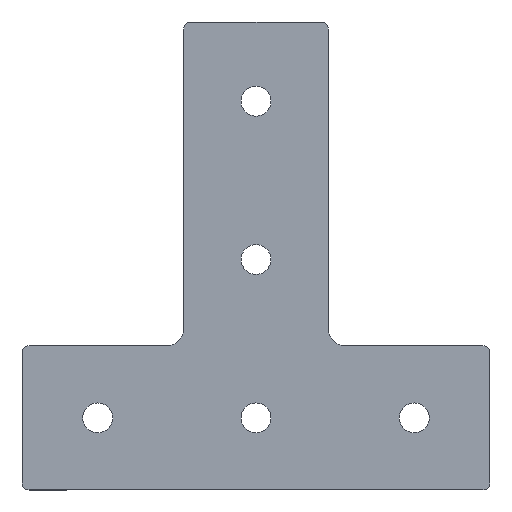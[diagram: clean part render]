
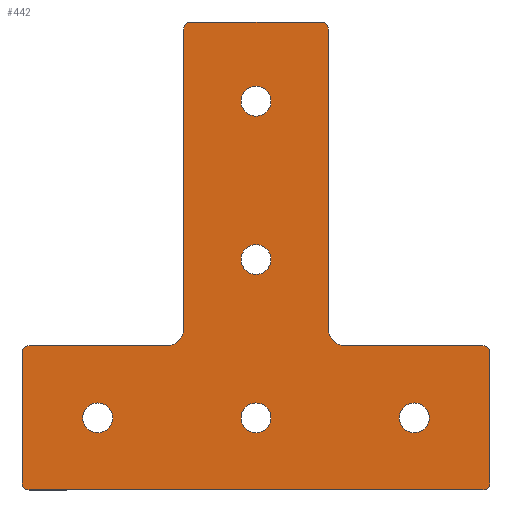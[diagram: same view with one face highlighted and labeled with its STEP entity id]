
A CAD part, top view. The second image highlights one B-rep face of the part: STEP entity #442.
In plain terms, the highlighted planar face has unit normal (0, 0, 1).
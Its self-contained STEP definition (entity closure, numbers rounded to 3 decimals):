
#21=CIRCLE('',#464,2.);
#23=CIRCLE('',#468,5.);
#25=CIRCLE('',#472,2.);
#27=CIRCLE('',#476,2.);
#29=CIRCLE('',#480,2.);
#31=CIRCLE('',#484,2.);
#33=CIRCLE('',#488,5.);
#35=CIRCLE('',#492,2.);
#41=CIRCLE('',#500,4.25);
#42=CIRCLE('',#501,4.25);
#43=CIRCLE('',#502,4.25);
#44=CIRCLE('',#503,4.25);
#45=CIRCLE('',#504,4.25);
#144=ORIENTED_EDGE('',*,*,#228,.F.);
#145=ORIENTED_EDGE('',*,*,#229,.F.);
#146=ORIENTED_EDGE('',*,*,#230,.F.);
#147=ORIENTED_EDGE('',*,*,#222,.T.);
#148=ORIENTED_EDGE('',*,*,#219,.T.);
#149=ORIENTED_EDGE('',*,*,#216,.T.);
#150=ORIENTED_EDGE('',*,*,#213,.T.);
#151=ORIENTED_EDGE('',*,*,#210,.T.);
#152=ORIENTED_EDGE('',*,*,#207,.T.);
#153=ORIENTED_EDGE('',*,*,#204,.T.);
#154=ORIENTED_EDGE('',*,*,#201,.T.);
#155=ORIENTED_EDGE('',*,*,#198,.T.);
#156=ORIENTED_EDGE('',*,*,#195,.T.);
#157=ORIENTED_EDGE('',*,*,#192,.T.);
#158=ORIENTED_EDGE('',*,*,#189,.T.);
#159=ORIENTED_EDGE('',*,*,#186,.T.);
#160=ORIENTED_EDGE('',*,*,#183,.T.);
#161=ORIENTED_EDGE('',*,*,#180,.T.);
#162=ORIENTED_EDGE('',*,*,#177,.T.);
#163=ORIENTED_EDGE('',*,*,#231,.F.);
#164=ORIENTED_EDGE('',*,*,#232,.F.);
#177=EDGE_CURVE('',#236,#235,#277,.T.);
#180=EDGE_CURVE('',#238,#236,#21,.T.);
#183=EDGE_CURVE('',#240,#238,#281,.T.);
#186=EDGE_CURVE('',#242,#240,#23,.T.);
#189=EDGE_CURVE('',#244,#242,#285,.T.);
#192=EDGE_CURVE('',#246,#244,#25,.T.);
#195=EDGE_CURVE('',#248,#246,#289,.T.);
#198=EDGE_CURVE('',#250,#248,#27,.T.);
#201=EDGE_CURVE('',#252,#250,#293,.T.);
#204=EDGE_CURVE('',#254,#252,#29,.T.);
#207=EDGE_CURVE('',#256,#254,#297,.T.);
#210=EDGE_CURVE('',#258,#256,#31,.T.);
#213=EDGE_CURVE('',#260,#258,#301,.T.);
#216=EDGE_CURVE('',#262,#260,#33,.T.);
#219=EDGE_CURVE('',#264,#262,#305,.T.);
#222=EDGE_CURVE('',#235,#264,#35,.T.);
#228=EDGE_CURVE('',#270,#270,#41,.T.);
#229=EDGE_CURVE('',#271,#271,#42,.T.);
#230=EDGE_CURVE('',#272,#272,#43,.T.);
#231=EDGE_CURVE('',#273,#273,#44,.T.);
#232=EDGE_CURVE('',#274,#274,#45,.T.);
#235=VERTEX_POINT('',#648);
#236=VERTEX_POINT('',#650);
#238=VERTEX_POINT('',#656);
#240=VERTEX_POINT('',#662);
#242=VERTEX_POINT('',#668);
#244=VERTEX_POINT('',#674);
#246=VERTEX_POINT('',#680);
#248=VERTEX_POINT('',#686);
#250=VERTEX_POINT('',#692);
#252=VERTEX_POINT('',#698);
#254=VERTEX_POINT('',#704);
#256=VERTEX_POINT('',#710);
#258=VERTEX_POINT('',#716);
#260=VERTEX_POINT('',#722);
#262=VERTEX_POINT('',#728);
#264=VERTEX_POINT('',#734);
#270=VERTEX_POINT('',#752);
#271=VERTEX_POINT('',#754);
#272=VERTEX_POINT('',#756);
#273=VERTEX_POINT('',#758);
#274=VERTEX_POINT('',#760);
#277=LINE('',#649,#309);
#281=LINE('',#661,#313);
#285=LINE('',#673,#317);
#289=LINE('',#685,#321);
#293=LINE('',#697,#325);
#297=LINE('',#709,#329);
#301=LINE('',#721,#333);
#305=LINE('',#733,#337);
#309=VECTOR('',#516,1000.);
#313=VECTOR('',#528,1000.);
#317=VECTOR('',#540,1000.);
#321=VECTOR('',#552,1000.);
#325=VECTOR('',#564,1000.);
#329=VECTOR('',#576,1000.);
#333=VECTOR('',#588,1000.);
#337=VECTOR('',#600,1000.);
#361=EDGE_LOOP('',(#144));
#362=EDGE_LOOP('',(#145));
#363=EDGE_LOOP('',(#146));
#364=EDGE_LOOP('',(#147,#148,#149,#150,#151,#152,#153,#154,#155,#156,#157,
#158,#159,#160,#161,#162));
#365=EDGE_LOOP('',(#163));
#366=EDGE_LOOP('',(#164));
#399=FACE_BOUND('',#361,.T.);
#400=FACE_BOUND('',#362,.T.);
#401=FACE_BOUND('',#363,.T.);
#402=FACE_BOUND('',#364,.T.);
#403=FACE_BOUND('',#365,.T.);
#404=FACE_BOUND('',#366,.T.);
#424=PLANE('',#499);
#442=ADVANCED_FACE('',(#399,#400,#401,#402,#403,#404),#424,.T.);
#464=AXIS2_PLACEMENT_3D('',#655,#522,#523);
#468=AXIS2_PLACEMENT_3D('',#667,#534,#535);
#472=AXIS2_PLACEMENT_3D('',#679,#546,#547);
#476=AXIS2_PLACEMENT_3D('',#691,#558,#559);
#480=AXIS2_PLACEMENT_3D('',#703,#570,#571);
#484=AXIS2_PLACEMENT_3D('',#715,#582,#583);
#488=AXIS2_PLACEMENT_3D('',#727,#594,#595);
#492=AXIS2_PLACEMENT_3D('',#738,#606,#607);
#499=AXIS2_PLACEMENT_3D('',#750,#620,#621);
#500=AXIS2_PLACEMENT_3D('',#751,#622,#623);
#501=AXIS2_PLACEMENT_3D('',#753,#624,#625);
#502=AXIS2_PLACEMENT_3D('',#755,#626,#627);
#503=AXIS2_PLACEMENT_3D('',#757,#628,#629);
#504=AXIS2_PLACEMENT_3D('',#759,#630,#631);
#516=DIRECTION('',(-1.,0.,0.));
#522=DIRECTION('',(0.,0.,1.));
#523=DIRECTION('',(1.,0.,0.));
#528=DIRECTION('',(0.,1.,0.));
#534=DIRECTION('',(0.,0.,-1.));
#535=DIRECTION('',(1.,0.,0.));
#540=DIRECTION('',(-1.,0.,0.));
#546=DIRECTION('',(0.,0.,1.));
#547=DIRECTION('',(1.,0.,0.));
#552=DIRECTION('',(0.,1.,0.));
#558=DIRECTION('',(0.,0.,1.));
#559=DIRECTION('',(1.,0.,0.));
#564=DIRECTION('',(1.,0.,0.));
#570=DIRECTION('',(0.,0.,1.));
#571=DIRECTION('',(1.,0.,0.));
#576=DIRECTION('',(0.,-1.,0.));
#582=DIRECTION('',(0.,0.,1.));
#583=DIRECTION('',(1.,0.,0.));
#588=DIRECTION('',(-1.,0.,0.));
#594=DIRECTION('',(0.,0.,-1.));
#595=DIRECTION('',(1.,0.,0.));
#600=DIRECTION('',(0.,-1.,0.));
#606=DIRECTION('',(0.,0.,1.));
#607=DIRECTION('',(1.,0.,0.));
#620=DIRECTION('',(0.,0.,1.));
#621=DIRECTION('',(1.,0.,0.));
#622=DIRECTION('',(0.,0.,1.));
#623=DIRECTION('',(1.,0.,0.));
#624=DIRECTION('',(0.,0.,1.));
#625=DIRECTION('',(1.,0.,0.));
#626=DIRECTION('',(0.,0.,1.));
#627=DIRECTION('',(1.,0.,0.));
#628=DIRECTION('',(0.,0.,1.));
#629=DIRECTION('',(1.,0.,0.));
#630=DIRECTION('',(0.,0.,1.));
#631=DIRECTION('',(1.,0.,0.));
#648=CARTESIAN_POINT('',(-18.5,112.5,3.));
#649=CARTESIAN_POINT('',(-18.5,112.5,3.));
#650=CARTESIAN_POINT('',(18.5,112.5,3.));
#655=CARTESIAN_POINT('',(18.5,110.5,3.));
#656=CARTESIAN_POINT('',(20.5,110.5,3.));
#661=CARTESIAN_POINT('',(20.5,110.5,3.));
#662=CARTESIAN_POINT('',(20.5,25.5,3.));
#667=CARTESIAN_POINT('',(25.5,25.5,3.));
#668=CARTESIAN_POINT('',(25.5,20.5,3.));
#673=CARTESIAN_POINT('',(25.5,20.5,3.));
#674=CARTESIAN_POINT('',(64.5,20.5,3.));
#679=CARTESIAN_POINT('',(64.5,18.5,3.));
#680=CARTESIAN_POINT('',(66.5,18.5,3.));
#685=CARTESIAN_POINT('',(66.5,18.5,3.));
#686=CARTESIAN_POINT('',(66.5,-18.5,3.));
#691=CARTESIAN_POINT('',(64.5,-18.5,3.));
#692=CARTESIAN_POINT('',(64.5,-20.5,3.));
#697=CARTESIAN_POINT('',(-64.5,-20.5,3.));
#698=CARTESIAN_POINT('',(-64.5,-20.5,3.));
#703=CARTESIAN_POINT('',(-64.5,-18.5,3.));
#704=CARTESIAN_POINT('',(-66.5,-18.5,3.));
#709=CARTESIAN_POINT('',(-66.5,18.5,3.));
#710=CARTESIAN_POINT('',(-66.5,18.5,3.));
#715=CARTESIAN_POINT('',(-64.5,18.5,3.));
#716=CARTESIAN_POINT('',(-64.5,20.5,3.));
#721=CARTESIAN_POINT('',(-64.5,20.5,3.));
#722=CARTESIAN_POINT('',(-25.5,20.5,3.));
#727=CARTESIAN_POINT('',(-25.5,25.5,3.));
#728=CARTESIAN_POINT('',(-20.5,25.5,3.));
#733=CARTESIAN_POINT('',(-20.5,110.5,3.));
#734=CARTESIAN_POINT('',(-20.5,110.5,3.));
#738=CARTESIAN_POINT('',(-18.5,110.5,3.));
#750=CARTESIAN_POINT('',(-18.5,110.5,3.));
#751=CARTESIAN_POINT('',(-45.,0.,3.));
#752=CARTESIAN_POINT('',(-40.75,0.,3.));
#753=CARTESIAN_POINT('',(0.,90.,3.));
#754=CARTESIAN_POINT('',(4.25,90.,3.));
#755=CARTESIAN_POINT('',(0.,0.,3.));
#756=CARTESIAN_POINT('',(4.25,0.,3.));
#757=CARTESIAN_POINT('',(0.,45.,3.));
#758=CARTESIAN_POINT('',(4.25,45.,3.));
#759=CARTESIAN_POINT('',(45.,0.,3.));
#760=CARTESIAN_POINT('',(49.25,0.,3.));
